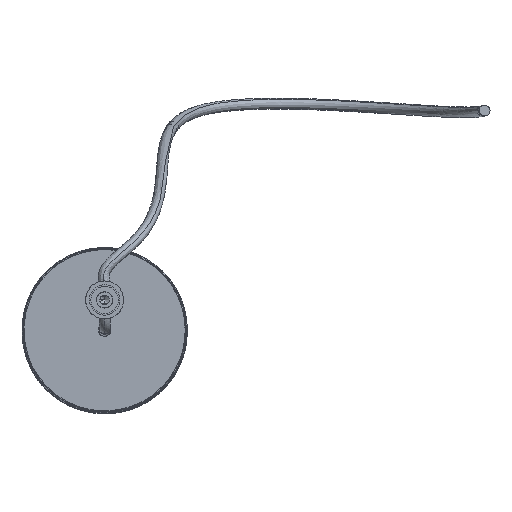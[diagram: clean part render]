
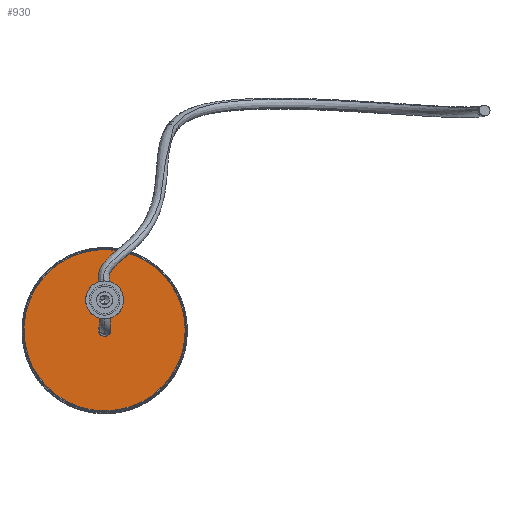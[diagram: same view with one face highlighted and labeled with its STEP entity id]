
A CAD part, top view. The second image highlights one B-rep face of the part: STEP entity #930.
In plain terms, the highlighted planar face has unit normal (0, 0, 1).
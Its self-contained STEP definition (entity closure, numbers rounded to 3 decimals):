
#177=FACE_BOUND('',#2637,.T.);
#930=ADVANCED_FACE('',(#1781,#177),#10695,.T.);
#1781=FACE_OUTER_BOUND('',#2636,.T.);
#2636=EDGE_LOOP('',(#5718,#5719));
#2637=EDGE_LOOP('',(#5720,#5721));
#5718=ORIENTED_EDGE('',*,*,#7734,.T.);
#5719=ORIENTED_EDGE('',*,*,#7752,.F.);
#5720=ORIENTED_EDGE('',*,*,#7744,.T.);
#5721=ORIENTED_EDGE('',*,*,#7750,.T.);
#7734=EDGE_CURVE('',#10508,#10511,#9613,.T.);
#7744=EDGE_CURVE('',#10519,#10518,#9622,.T.);
#7750=EDGE_CURVE('',#10518,#10519,#9625,.T.);
#7752=EDGE_CURVE('',#10508,#10511,#9627,.T.);
#9613=(
BOUNDED_CURVE()
B_SPLINE_CURVE(2,(#77880,#77881,#77882,#77883,#77884),.UNSPECIFIED.,.F.,
 .F.)
B_SPLINE_CURVE_WITH_KNOTS((3,2,3),(0.,66.759,133.518),
 .UNSPECIFIED.)
CURVE()
GEOMETRIC_REPRESENTATION_ITEM()
RATIONAL_B_SPLINE_CURVE((1.,0.707,1.,0.707,1.))
REPRESENTATION_ITEM('')
);
#9622=(
BOUNDED_CURVE()
B_SPLINE_CURVE(2,(#77919,#77920,#77921,#77922,#77923),.UNSPECIFIED.,.F.,
 .F.)
B_SPLINE_CURVE_WITH_KNOTS((3,2,3),(-10.524,-5.262,0.),
 .UNSPECIFIED.)
CURVE()
GEOMETRIC_REPRESENTATION_ITEM()
RATIONAL_B_SPLINE_CURVE((1.,0.707,1.,0.707,1.))
REPRESENTATION_ITEM('')
);
#9625=(
BOUNDED_CURVE()
B_SPLINE_CURVE(2,(#77940,#77941,#77942,#77943,#77944),.UNSPECIFIED.,.F.,
 .F.)
B_SPLINE_CURVE_WITH_KNOTS((3,2,3),(-10.524,-5.262,0.),
 .UNSPECIFIED.)
CURVE()
GEOMETRIC_REPRESENTATION_ITEM()
RATIONAL_B_SPLINE_CURVE((1.,0.707,1.,0.707,1.))
REPRESENTATION_ITEM('')
);
#9627=(
BOUNDED_CURVE()
B_SPLINE_CURVE(2,(#77950,#77951,#77952,#77953,#77954),.UNSPECIFIED.,.F.,
 .F.)
B_SPLINE_CURVE_WITH_KNOTS((3,2,3),(0.,66.759,133.518),
 .UNSPECIFIED.)
CURVE()
GEOMETRIC_REPRESENTATION_ITEM()
RATIONAL_B_SPLINE_CURVE((1.,0.707,1.,0.707,1.))
REPRESENTATION_ITEM('')
);
#10508=VERTEX_POINT('',#77868);
#10511=VERTEX_POINT('',#77871);
#10518=VERTEX_POINT('',#77878);
#10519=VERTEX_POINT('',#77879);
#10695=PLANE('',#11913);
#11913=AXIS2_PLACEMENT_3D('',#77686,#12021,$);
#12021=DIRECTION('',(0.,0.,1.));
#77686=CARTESIAN_POINT('',(-7.729,-44.111,-142.976));
#77868=CARTESIAN_POINT('',(-107.701,-7.382,-142.976));
#77871=CARTESIAN_POINT('',(-51.694,-71.321,-142.976));
#77878=CARTESIAN_POINT('',(-77.49,-41.871,-142.976));
#77879=CARTESIAN_POINT('',(-81.905,-36.831,-142.976));
#77880=CARTESIAN_POINT('',(-107.701,-7.382,-142.976));
#77881=CARTESIAN_POINT('',(-139.67,-35.385,-142.976));
#77882=CARTESIAN_POINT('',(-111.667,-67.355,-142.976));
#77883=CARTESIAN_POINT('',(-83.663,-99.324,-142.976));
#77884=CARTESIAN_POINT('',(-51.694,-71.321,-142.976));
#77919=CARTESIAN_POINT('',(-81.905,-36.831,-142.976));
#77920=CARTESIAN_POINT('',(-79.385,-34.624,-142.976));
#77921=CARTESIAN_POINT('',(-77.177,-37.144,-142.976));
#77922=CARTESIAN_POINT('',(-74.97,-39.664,-142.976));
#77923=CARTESIAN_POINT('',(-77.49,-41.871,-142.976));
#77940=CARTESIAN_POINT('',(-77.49,-41.871,-142.976));
#77941=CARTESIAN_POINT('',(-80.01,-44.079,-142.976));
#77942=CARTESIAN_POINT('',(-82.217,-41.559,-142.976));
#77943=CARTESIAN_POINT('',(-84.424,-39.039,-142.976));
#77944=CARTESIAN_POINT('',(-81.905,-36.831,-142.976));
#77950=CARTESIAN_POINT('',(-107.701,-7.382,-142.976));
#77951=CARTESIAN_POINT('',(-75.731,20.622,-142.976));
#77952=CARTESIAN_POINT('',(-47.728,-11.348,-142.976));
#77953=CARTESIAN_POINT('',(-19.724,-43.318,-142.976));
#77954=CARTESIAN_POINT('',(-51.694,-71.321,-142.976));
